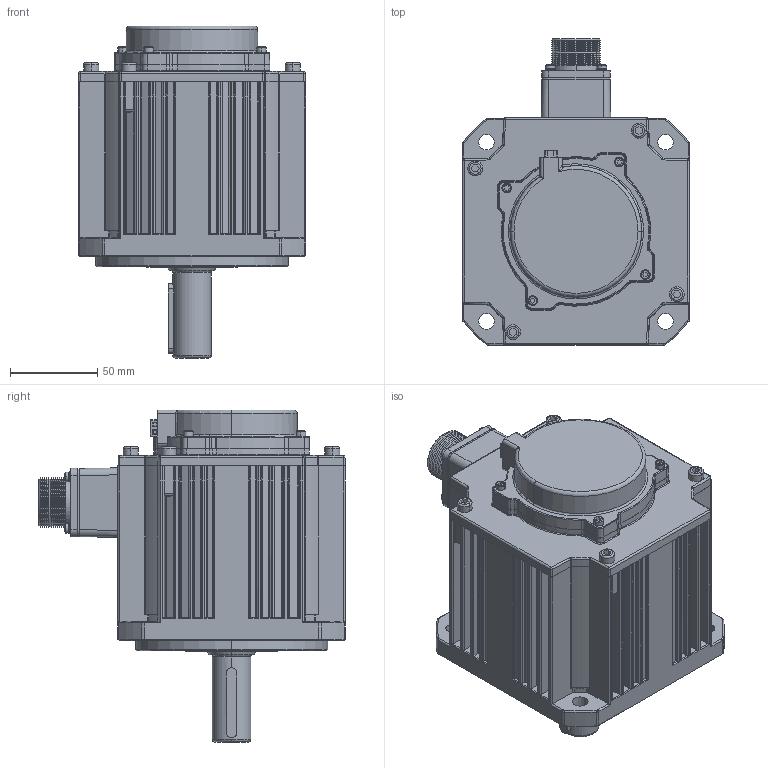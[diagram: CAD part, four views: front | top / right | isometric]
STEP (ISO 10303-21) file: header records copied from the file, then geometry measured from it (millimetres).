
FILE_DESCRIPTION (( 'STEP AP203' ), '1' );
FILE_NAME ('G3系列130伺服-1300W电机三维图-三竹插拔式.STEP', '2023-05-17T08:37:21', ( '微软用户' ), ( '微软中国' ), 'SwSTEP 2.0', 'SolidWorks 2016', '' );
FILE_SCHEMA (( 'CONFIG_CONTROL_DESIGN' ));
Length unit declared in the file: millimetre
Products named in the file (1): G3系列130伺服-1300W电机三维图-三竹插拔式
Bounding box: 130 x 175.3 x 190 mm (x, y, z)
Surface area: 271153.8 mm2 (no closed solid volume)
Topology: 0 solids, 21 shells, 3568 faces, 9192 edges, 5753 vertices
Faces by surface type: plane 1533, cylinder 744, bspline 561, cone 464, torus 199, sphere 67
Entity records: 125875 total; most frequent: CARTESIAN_POINT 42905, ORIENTED_EDGE 18176, DIRECTION 15959, EDGE_CURVE 9102, VERTEX_POINT 5741, AXIS2_PLACEMENT_3D 5355, LINE 5249, VECTOR 5249
